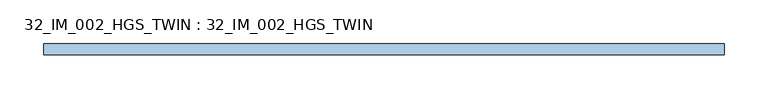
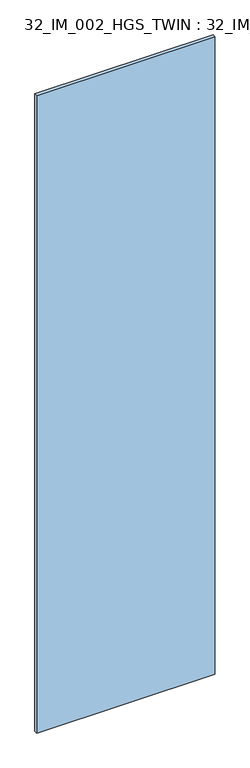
"""IFC4 building model written with IfcOpenShell, lengths in millimetres: window geometry, 32_IM_002_HGS_TWIN : 32_IM_002_HGS_TWIN."""

from ifc_helpers import new_model, si_unit, origin, origin_with_axes, place, context, project, spatial, polyline, outline, extrude, source, transform, mapped, element, save


def window_32_im_002_hgs_twin_32_im_002_hgs_twin_de3dee43(model_context):
    return source(origin(), model_context, "Body", "SweptSolid", [
        extrude(outline(polyline([(390.7451567, -6.4), (-390.7451567, -6.4), (-390.7451567, 6.4), (390.7451567, 6.4), (390.7451567, -6.4)])), origin_with_axes(), (0.0, 0.0, 1.0), 2956.0),
    ])


if __name__ == "__main__":
    model = new_model("IFC4")
    model_context = context("Model", 3, world=origin())
    ifc_project = project(units=[si_unit("LENGTHUNIT", "METRE", prefix="MILLI")], contexts=[model_context])
    site = spatial("IfcSite", under=ifc_project)
    building = spatial("IfcBuilding", under=site)
    placement = place(None, origin())
    window_32_im_002_hgs_twin_32_im_002_hgs_twin_shape = window_32_im_002_hgs_twin_32_im_002_hgs_twin_de3dee43(model_context)
    element("IfcWindow", 1, ObjectType="32_IM_002_HGS_TWIN : 32_IM_002_HGS_TWIN", at=placement, inside=building, context=model_context, shape_type="MappedRepresentation", body=[
        mapped(window_32_im_002_hgs_twin_32_im_002_hgs_twin_shape, transform((0.0, 0.0, 0.0), x_axis=(1.0, 0.0, 0.0), y_axis=(0.0, 1.0, 0.0), z_axis=(0.0, 0.0, 1.0))),
    ])
    save(model, "model.ifc")
